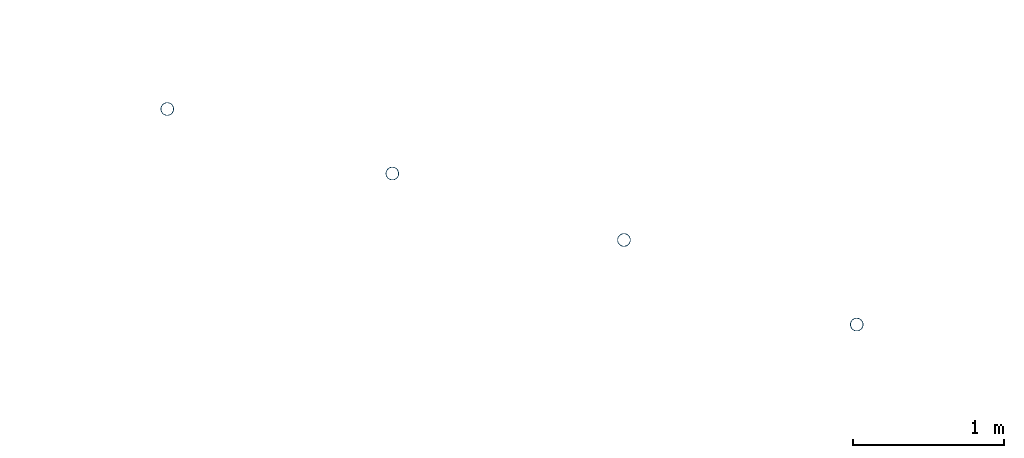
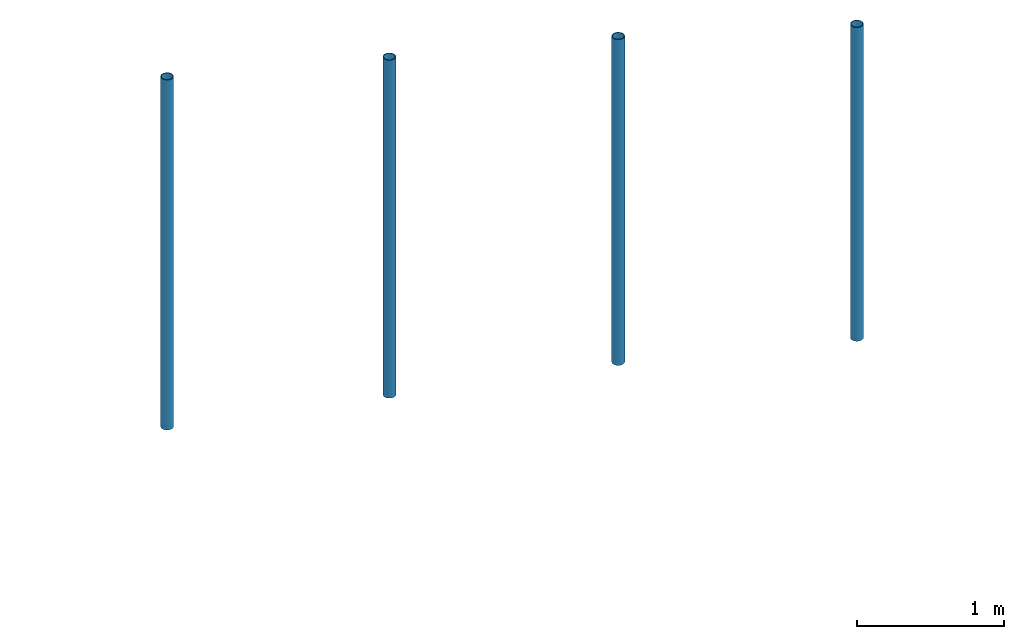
# One storey, part 4 of 5: 4 columns.
"""IFC2X3 building model written with IfcOpenShell, lengths in millimetres."""

from ifc_helpers import new_model, entity, si_unit, converted_unit, derived_unit, direction, frame, frame_2d, origin, place, context, subcontext, project, spatial, hollow_circle, extrude, source, transform, mapped, material, material_list, type_object, type_shapes, element, save


model = new_model("IFC2X3")

# Units and contexts
model_context = context("Model", 3, precision=0.01, world=origin(), true_north=direction((6.12303176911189e-17, 1.0)))
context_of_model = context(None, 3, precision=0.01, world=origin(), true_north=direction((6.12303176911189e-17, 1.0)))
body_context = subcontext(model_context, "Body", "Model", "MODEL_VIEW")
ifc_project = project(units=[si_unit("LENGTHUNIT", "METRE", prefix="MILLI"), si_unit("AREAUNIT", "SQUARE_METRE"), si_unit("VOLUMEUNIT", "CUBIC_METRE"), converted_unit("PLANEANGLEUNIT", "DEGREE", entity("IfcRatioMeasure", 0.0174532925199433), si_unit("PLANEANGLEUNIT", "RADIAN"), dimensions=[0, 0, 0, 0, 0, 0, 0]), si_unit("MASSUNIT", "GRAM", prefix="KILO"), derived_unit("MASSDENSITYUNIT", [(si_unit("MASSUNIT", "GRAM", prefix="KILO"), 1), (si_unit("LENGTHUNIT", "METRE"), -3)]), derived_unit("MOMENTOFINERTIAUNIT", [(si_unit("LENGTHUNIT", "METRE"), 4)]), si_unit("TIMEUNIT", "SECOND"), si_unit("FREQUENCYUNIT", "HERTZ"), si_unit("THERMODYNAMICTEMPERATUREUNIT", "DEGREE_CELSIUS"), derived_unit("THERMALTRANSMITTANCEUNIT", [(si_unit("MASSUNIT", "GRAM", prefix="KILO"), 1), (si_unit("THERMODYNAMICTEMPERATUREUNIT", "KELVIN"), -1), (si_unit("TIMEUNIT", "SECOND"), -3)]), derived_unit("VOLUMETRICFLOWRATEUNIT", [(si_unit("LENGTHUNIT", "METRE"), 3), (si_unit("TIMEUNIT", "SECOND"), -1)]), si_unit("ELECTRICCURRENTUNIT", "AMPERE"), si_unit("ELECTRICVOLTAGEUNIT", "VOLT"), si_unit("POWERUNIT", "WATT"), si_unit("FORCEUNIT", "NEWTON", prefix="KILO"), si_unit("ILLUMINANCEUNIT", "LUX"), si_unit("LUMINOUSFLUXUNIT", "LUMEN"), si_unit("LUMINOUSINTENSITYUNIT", "CANDELA"), derived_unit("USERDEFINED", [(si_unit("MASSUNIT", "GRAM", prefix="KILO"), -1), (si_unit("LENGTHUNIT", "METRE"), -2), (si_unit("TIMEUNIT", "SECOND"), 3), (si_unit("LUMINOUSFLUXUNIT", "LUMEN"), 1)]), derived_unit("LINEARVELOCITYUNIT", [(si_unit("LENGTHUNIT", "METRE"), 1), (si_unit("TIMEUNIT", "SECOND"), -1)]), si_unit("PRESSUREUNIT", "PASCAL"), derived_unit("USERDEFINED", [(si_unit("LENGTHUNIT", "METRE"), -2), (si_unit("MASSUNIT", "GRAM", prefix="KILO"), 1), (si_unit("TIMEUNIT", "SECOND"), -2)]), derived_unit("LINEARFORCEUNIT", [(si_unit("MASSUNIT", "GRAM", prefix="KILO"), 1), (si_unit("LENGTHUNIT", "METRE"), 1), (si_unit("TIMEUNIT", "SECOND"), -2), (si_unit("LENGTHUNIT", "METRE"), -1)]), derived_unit("PLANARFORCEUNIT", [(si_unit("MASSUNIT", "GRAM", prefix="KILO"), 1), (si_unit("LENGTHUNIT", "METRE"), 1), (si_unit("TIMEUNIT", "SECOND"), -2), (si_unit("LENGTHUNIT", "METRE"), -2)])], contexts=[model_context, context_of_model])

# Site, building, storey
site_placement = place(None, origin())
site = spatial("IfcSite", under=ifc_project, at=site_placement, Name="Default", CompositionType="ELEMENT")
building_placement = place(site_placement, origin())
building = spatial("IfcBuilding", under=site, at=building_placement, Name="IFc", CompositionType="ELEMENT")
storey_placement = place(building_placement, frame((0.0, 0.0, 3000.0)))
storey = spatial("IfcBuildingStorey", under=building, at=storey_placement, Name="01 1e verd. b.k. ruwe vloer", CompositionType="ELEMENT", Elevation=3000.00000000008)

# Columns
ifc_material_1 = material(Name="IMd_staal")
ifc_material_2 = material(Name="<Unnamed>")
ifc_material_list_1 = material_list([ifc_material_2, ifc_material_1])
column_type_1 = type_object("IfcColumnType", Name="NLRS_28_SC_TLB_kolom buis_generiek_ISR:ø88.9x5", PredefinedType="COLUMN", material=ifc_material_list_1)
shared_shape_1 = source(origin(), body_context, "Body", "SweptSolid", [
    extrude(hollow_circle(Radius=44.45, WallThickness=4.99999999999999, at=frame_2d((-1.68427735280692e-15, -5.64975186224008e-14), x_axis=(1.0, 0.0))), frame((0.0, 0.0, 3500.0), z_axis=(0.0, 0.0, 1.0), x_axis=(-1.0, 0.0, 0.0)), (0.0, 0.0, 1.0), 2900.0),
])
type_shapes(column_type_1, [shared_shape_1])
column_1_placement = place(storey_placement, frame((25709.7809343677, 23865.0309917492, -3000.0)))
element("IfcColumn", 1, at=column_1_placement, inside=storey, type_object=column_type_1, material=ifc_material_1, Name="NLRS_28_SC_TLB_kolom buis_generiek_ISR:ø88.9x5", ObjectType="NLRS_28_SC_TLB_kolom buis_generiek_ISR:ø88.9x5", context=body_context, shape_type="MappedRepresentation", body=[
    mapped(shared_shape_1, transform((0.0, 0.0, 0.0), scale=1.0)),
])
ifc_material_list_2 = material_list([ifc_material_2, ifc_material_1])
column_type_2 = type_object("IfcColumnType", Name="NLRS_28_SC_TLB_kolom buis_generiek_ISR:ø88.9x5", PredefinedType="COLUMN", material=ifc_material_list_2)
shared_shape_2 = source(origin(), body_context, "Body", "SweptSolid", [
    extrude(hollow_circle(Radius=44.45, WallThickness=4.99999999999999, at=frame_2d((-1.68427735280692e-15, -5.64975186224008e-14), x_axis=(1.0, 0.0))), frame((0.0, 0.0, 3500.0), z_axis=(0.0, 0.0, 1.0), x_axis=(-1.0, 0.0, 0.0)), (0.0, 0.0, 1.0), 2800.0),
])
type_shapes(column_type_2, [shared_shape_2])
column_2_placement = place(storey_placement, frame((27204.3629063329, 23436.4665076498, -3000.0)))
element("IfcColumn", 2, at=column_2_placement, inside=storey, type_object=column_type_2, material=ifc_material_1, Name="NLRS_28_SC_TLB_kolom buis_generiek_ISR:ø88.9x5", ObjectType="NLRS_28_SC_TLB_kolom buis_generiek_ISR:ø88.9x5", context=body_context, shape_type="MappedRepresentation", body=[
    mapped(shared_shape_2, transform((0.0, 0.0, 0.0), scale=1.0)),
])
ifc_material_list_3 = material_list([ifc_material_2, ifc_material_1])
column_type_3 = type_object("IfcColumnType", Name="NLRS_28_SC_TLB_kolom buis_generiek_ISR:ø88.9x5", PredefinedType="COLUMN", material=ifc_material_list_3)
shared_shape_3 = source(origin(), body_context, "Body", "SweptSolid", [
    extrude(hollow_circle(Radius=44.45, WallThickness=4.99999999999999, at=frame_2d((-1.68427735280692e-15, -5.64975186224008e-14), x_axis=(1.0, 0.0))), frame((0.0, 0.0, 3500.0), z_axis=(0.0, 0.0, 1.0), x_axis=(-1.0, 0.0, 0.0)), (0.0, 0.0, 1.0), 2700.0),
])
type_shapes(column_type_3, [shared_shape_3])
column_3_placement = place(storey_placement, frame((28742.9824083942, 22995.2744649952, -3000.0)))
element("IfcColumn", 3, at=column_3_placement, inside=storey, type_object=column_type_3, material=ifc_material_1, Name="NLRS_28_SC_TLB_kolom buis_generiek_ISR:ø88.9x5", ObjectType="NLRS_28_SC_TLB_kolom buis_generiek_ISR:ø88.9x5", context=body_context, shape_type="MappedRepresentation", body=[
    mapped(shared_shape_3, transform((0.0, 0.0, 0.0), scale=1.0)),
])
ifc_material_list_4 = material_list([ifc_material_2, ifc_material_1])
column_type_4 = type_object("IfcColumnType", Name="NLRS_28_SC_TLB_kolom buis_generiek_ISR:ø88.9x5", PredefinedType="COLUMN", material=ifc_material_list_4)
shared_shape_4 = source(origin(), body_context, "Body", "SweptSolid", [
    extrude(hollow_circle(Radius=44.45, WallThickness=4.99999999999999, at=frame_2d((-1.68427735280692e-15, -5.64975186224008e-14), x_axis=(1.0, 0.0))), frame((0.0, 0.0, 3500.0), z_axis=(0.0, 0.0, 1.0), x_axis=(-1.0, 0.0, 0.0)), (0.0, 0.0, 1.0), 2600.0),
])
type_shapes(column_type_4, [shared_shape_4])
column_4_placement = place(storey_placement, frame((30288.881997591, 22433.4592537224, -3000.0)))
element("IfcColumn", 4, at=column_4_placement, inside=storey, type_object=column_type_4, material=ifc_material_1, Name="NLRS_28_SC_TLB_kolom buis_generiek_ISR:ø88.9x5", ObjectType="NLRS_28_SC_TLB_kolom buis_generiek_ISR:ø88.9x5", context=body_context, shape_type="MappedRepresentation", body=[
    mapped(shared_shape_4, transform((0.0, 0.0, 0.0), scale=1.0)),
])

save(model, "model.ifc")
